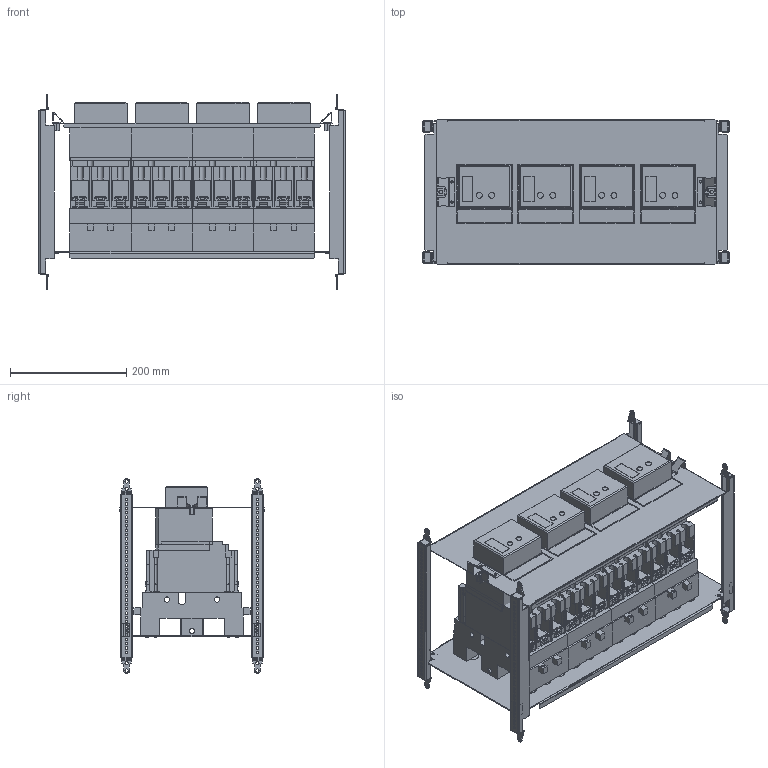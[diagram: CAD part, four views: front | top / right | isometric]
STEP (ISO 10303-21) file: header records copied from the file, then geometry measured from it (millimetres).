
FILE_DESCRIPTION(('CAx-IF Rec.Pracs.---Model Styling and Organization---1.2---2011-12-15','CAx-IF Rec.Pracs.---Geometric and Assembly Validation Properties---4.1---2014-06-16','CAx-IF Rec.Pracs.---PMI Polyline Presentation---2.0---2013-05-24'),'2;1');
FILE_NAME('R5PKIB7V62213 (P-MO).stp','2021-07-29T03:12:11+03:00',(''),(''),'STEP Interface 4.4 by CT CoreTechnologie','3D_Evolution4.4 by CT CoreTechnologie','');
FILE_SCHEMA(('AUTOMOTIVE_DESIGN { 1 0 10303 214 1 1 1 1 }'));
Length unit declared in the file: millimetre
Products named in the file (1): R5PKIB7V62213 (P-MO)
Bounding box: 526 x 248 x 335 mm (x, y, z)
Surface area: 1903221 mm2 (no closed solid volume)
Topology: 0 solids, 84 shells, 4370 faces, 12654 edges, 8514 vertices
Faces by surface type: plane 3342, cylinder 856, bspline 172
Entity records: 145200 total; most frequent: CARTESIAN_POINT 27651, ORIENTED_EDGE 25252, DIRECTION 22918, EDGE_CURVE 12638, VECTOR 10612, LINE 10612, VERTEX_POINT 8582, AXIS2_PLACEMENT_3D 6153
